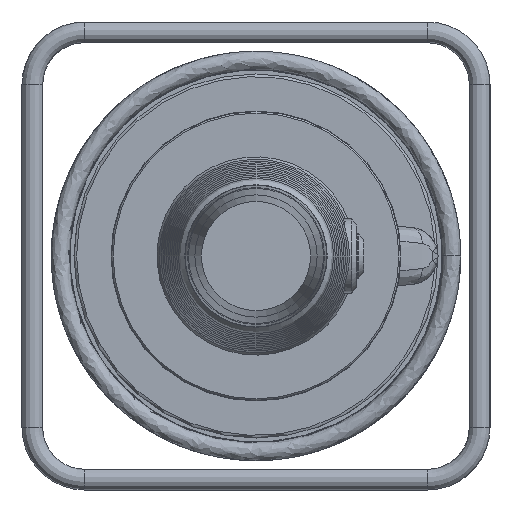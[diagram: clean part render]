
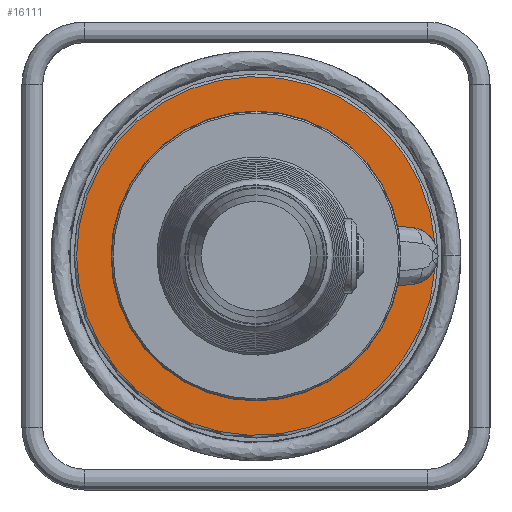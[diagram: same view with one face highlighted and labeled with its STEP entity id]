
A CAD part, left-side view. The second image highlights one B-rep face of the part: STEP entity #16111.
In plain terms, the highlighted planar face has unit normal (-1, 0, 0).
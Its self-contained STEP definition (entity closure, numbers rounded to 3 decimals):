
#2001=PLANE('',#16987);
#2717=FACE_OUTER_BOUND('',#3763,.T.);
#3763=EDGE_LOOP('',(#14174,#14175,#14176,#14177,#14178,#14179,#14180,#14181));
#4493=CIRCLE('',#16988,22.);
#4494=CIRCLE('',#16989,138.);
#4495=CIRCLE('',#16990,22.);
#4496=CIRCLE('',#16991,10.);
#4497=CIRCLE('',#16992,91.5);
#4498=CIRCLE('',#16993,10.);
#5627=LINE('',#36545,#6505);
#5628=LINE('',#36552,#6506);
#6505=VECTOR('',#19536,30.808);
#6506=VECTOR('',#19543,30.808);
#7788=VERTEX_POINT('',#36537);
#7789=VERTEX_POINT('',#36538);
#7790=VERTEX_POINT('',#36540);
#7791=VERTEX_POINT('',#36542);
#7792=VERTEX_POINT('',#36544);
#7793=VERTEX_POINT('',#36546);
#7794=VERTEX_POINT('',#36548);
#7795=VERTEX_POINT('',#36550);
#9986=EDGE_CURVE('',#7788,#7789,#4493,.T.);
#9987=EDGE_CURVE('',#7790,#7789,#4494,.T.);
#9988=EDGE_CURVE('',#7790,#7791,#4495,.T.);
#9989=EDGE_CURVE('',#7791,#7792,#5627,.T.);
#9990=EDGE_CURVE('',#7792,#7793,#4496,.T.);
#9991=EDGE_CURVE('',#7793,#7794,#4497,.T.);
#9992=EDGE_CURVE('',#7794,#7795,#4498,.T.);
#9993=EDGE_CURVE('',#7795,#7788,#5628,.T.);
#14174=ORIENTED_EDGE('',*,*,#9986,.T.);
#14175=ORIENTED_EDGE('',*,*,#9987,.F.);
#14176=ORIENTED_EDGE('',*,*,#9988,.T.);
#14177=ORIENTED_EDGE('',*,*,#9989,.T.);
#14178=ORIENTED_EDGE('',*,*,#9990,.T.);
#14179=ORIENTED_EDGE('',*,*,#9991,.T.);
#14180=ORIENTED_EDGE('',*,*,#9992,.T.);
#14181=ORIENTED_EDGE('',*,*,#9993,.T.);
#16111=ADVANCED_FACE('',(#2717),#2001,.T.);
#16987=AXIS2_PLACEMENT_3D('',#36536,#19528,#19529);
#16988=AXIS2_PLACEMENT_3D('',#36539,#19530,#19531);
#16989=AXIS2_PLACEMENT_3D('',#36541,#19532,#19533);
#16990=AXIS2_PLACEMENT_3D('',#36543,#19534,#19535);
#16991=AXIS2_PLACEMENT_3D('',#36547,#19537,#19538);
#16992=AXIS2_PLACEMENT_3D('',#36549,#19539,#19540);
#16993=AXIS2_PLACEMENT_3D('',#36551,#19541,#19542);
#19528=DIRECTION('center_axis',(-1.,0.,0.));
#19529=DIRECTION('ref_axis',(0.,1.,0.));
#19530=DIRECTION('center_axis',(1.,0.,0.));
#19531=DIRECTION('ref_axis',(0.,0.087,0.996));
#19532=DIRECTION('center_axis',(1.,0.,0.));
#19533=DIRECTION('ref_axis',(0.,0.,
1.));
#19534=DIRECTION('center_axis',(1.,0.,0.));
#19535=DIRECTION('ref_axis',(0.,0.087,0.996));
#19536=DIRECTION('',(0.,0.996,-0.087));
#19537=DIRECTION('center_axis',(-1.,0.,0.));
#19538=DIRECTION('ref_axis',(0.,0.087,0.996));
#19539=DIRECTION('center_axis',(1.,0.,0.));
#19540=DIRECTION('ref_axis',(0.,0.,
1.));
#19541=DIRECTION('center_axis',(-1.,0.,0.));
#19542=DIRECTION('ref_axis',(0.,0.934,-0.358));
#19543=DIRECTION('',(0.,-0.996,-0.087));
#36536=CARTESIAN_POINT('Origin',(-31.471,81.707,114.75));
#36537=CARTESIAN_POINT('',(-31.471,-38.21,21.916));
#36538=CARTESIAN_POINT('',(-31.471,-55.937,9.905));
#36539=CARTESIAN_POINT('Origin',(-31.471,-36.293,0.));
#36540=CARTESIAN_POINT('',(-31.471,-55.937,-9.905));
#36541=CARTESIAN_POINT('Origin',(-31.471,81.707,0.));
#36542=CARTESIAN_POINT('',(-31.471,-38.21,-21.916));
#36543=CARTESIAN_POINT('Origin',(-31.471,-36.293,0.));
#36544=CARTESIAN_POINT('',(-31.471,-7.519,-24.601));
#36545=CARTESIAN_POINT('',(-31.471,15.36,-26.603));
#36546=CARTESIAN_POINT('',(-31.471,-6.377,-24.768));
#36547=CARTESIAN_POINT('Origin',(-31.471,-8.391,-34.563));
#36548=CARTESIAN_POINT('',(-31.471,-6.377,24.768));
#36549=CARTESIAN_POINT('Origin',(-31.471,81.707,0.));
#36550=CARTESIAN_POINT('',(-31.471,-7.519,24.601));
#36551=CARTESIAN_POINT('Origin',(-31.471,-8.391,34.563));
#36552=CARTESIAN_POINT('',(-31.471,40.669,28.817));
